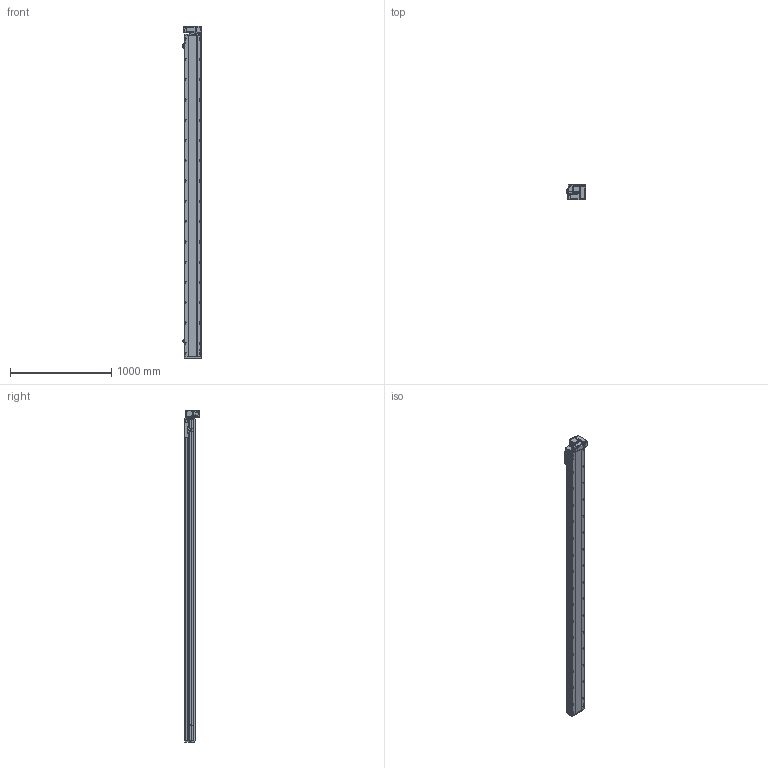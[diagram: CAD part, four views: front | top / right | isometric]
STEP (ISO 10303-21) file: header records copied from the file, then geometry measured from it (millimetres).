
FILE_DESCRIPTION (( 'STEP AP214' ), '1' );
FILE_NAME ('RTB17S-XX-2900-RM-M40-C4.STEP', '2025-12-11T08:34:07', ( '' ), ( '' ), 'SwSTEP 2.0', 'SolidWorks 2018', '' );
FILE_SCHEMA (( 'AUTOMOTIVE_DESIGN' ));
Length unit declared in the file: millimetre
Products named in the file (14): RTB14-L-005P--轴承塑胶压盖^RTB17S-RM-皮带座装配-400W_RTB17S-XX-XX-RM-M40-C4; RTB17S-L-004佪裝蹟譫蟀諉釱^RTB17S-XX-XX-RM-M40-C4; 400W侜督萇儂^RTB17S-XX-XX-RM-M40-C4; RTB17S-L-001耜醱啣^RTB17S-XX-XX-RM-M40-C4; RTB17S-L-014-T20--々湍釱^RTB17S-RM-々湍釱蚾饜-400W_RTB17S-XX-XX-RM-M40-C4; RTB17-R-011菁釱^RTB17S-XX-XX-RM-M40-C4; RTB17S-L-007奻裔^RTB17S-XX-XX-RM-M40-C4; RTB14-L-018P^RTB17S-RM-々湍釱蚾饜-400W_RTB17S-XX-XX-RM-M40-C4; RTB17S-RM-々湍釱蚾饜-400W^RTB17S-XX-XX-RM-M40-C4; RTB14-L-017P^RTB17S-RM-々湍釱蚾饜-400W_RTB17S-XX-XX-RM-M40-C4; RTH13-BL-012覜茼え俋离^RTB17S-XX-XX-RM-M40-C4; RTB17S-XX-2900-RM-M40-C4; OMRON EE-SX672 传感器^RTB17S-XX-XX-RM-M40-C4; RTB14-L-008-M20--萇儂啣^RTB17S-RM-々湍釱蚾饜-400W_RTB17S-XX-XX-RM-M40-C4
Assembly tree (16 placements, depth 3):
  RTB17S-XX-2900-RM-M40-C4
    RTB17-R-011菁釱^RTB17S-XX-XX-RM-M40-C4
    RTB17S-L-007奻裔^RTB17S-XX-XX-RM-M40-C4
    OMRON EE-SX672 传感器^RTB17S-XX-XX-RM-M40-C4  x3
    RTB17S-L-001耜醱啣^RTB17S-XX-XX-RM-M40-C4
    400W侜督萇儂^RTB17S-XX-XX-RM-M40-C4
    RTB17S-L-004佪裝蹟譫蟀諉釱^RTB17S-XX-XX-RM-M40-C4
    RTH13-BL-012覜茼え俋离^RTB17S-XX-XX-RM-M40-C4
    RTB17S-RM-々湍釱蚾饜-400W^RTB17S-XX-XX-RM-M40-C4
      RTB17S-L-014-T20--々湍釱^RTB17S-RM-々湍釱蚾饜-400W_RTB17S-XX-XX-RM-M40-C4
      RTB14-L-005P--轴承塑胶压盖^RTB17S-RM-皮带座装配-400W_RTB17S-XX-XX-RM-M40-C4
      RTB14-L-008-M20--萇儂啣^RTB17S-RM-々湍釱蚾饜-400W_RTB17S-XX-XX-RM-M40-C4
      RTB14-L-017P^RTB17S-RM-々湍釱蚾饜-400W_RTB17S-XX-XX-RM-M40-C4  x2
      RTB14-L-018P^RTB17S-RM-々湍釱蚾饜-400W_RTB17S-XX-XX-RM-M40-C4
Bounding box: 183.5 x 156.5 x 3272.5 mm (x, y, z)
Volume: 27866063.4 mm3; surface area: 3188617.8 mm2
Topology: 15 solids, 15 shells, 2365 faces, 6627 edges, 4329 vertices
Faces by surface type: plane 1088, cylinder 829, bspline 301, cone 139, torus 8
Entity records: 70313 total; most frequent: CARTESIAN_POINT 20032, ORIENTED_EDGE 10098, DIRECTION 9296, EDGE_CURVE 5049, VERTEX_POINT 3317, AXIS2_PLACEMENT_3D 3247, LINE 2802, VECTOR 2802
